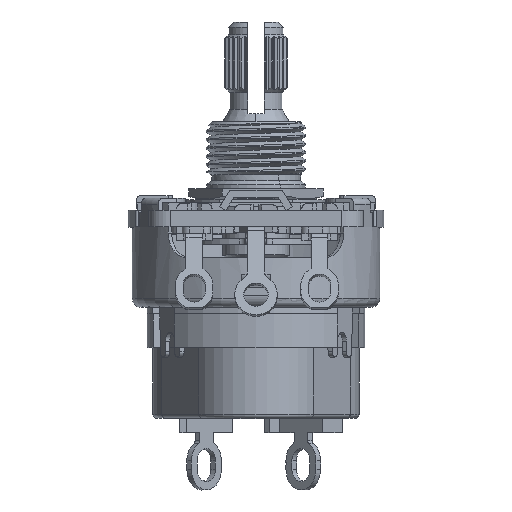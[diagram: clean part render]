
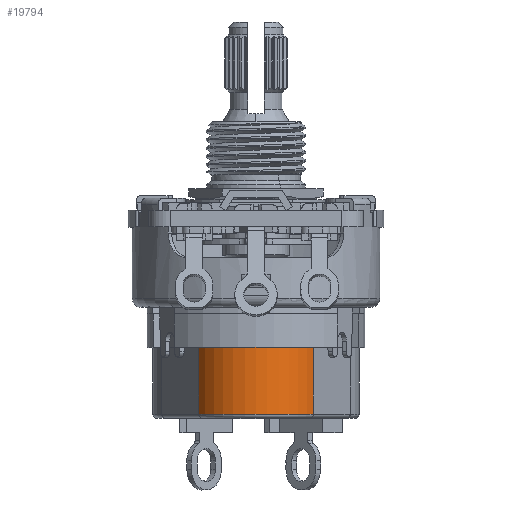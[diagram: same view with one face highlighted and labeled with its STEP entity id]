
A CAD part, top view. The second image highlights one B-rep face of the part: STEP entity #19794.
In plain terms, the highlighted cylindrical face has radius 6.296 mm (diameter 12.593 mm), a partial arc.
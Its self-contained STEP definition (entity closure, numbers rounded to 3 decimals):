
#166 = CARTESIAN_POINT ( 'NONE',  ( -5.453, 7.21, 9.95 ) ) ;
#393 = AXIS2_PLACEMENT_3D ( 'NONE', #9915, #10388, #17553 ) ;
#478 = DIRECTION ( 'NONE',  ( 0., 0., -1. ) ) ;
#622 = ORIENTED_EDGE ( 'NONE', *, *, #20524, .T. ) ;
#1731 = VERTEX_POINT ( 'NONE', #24049 ) ;
#2566 = DIRECTION ( 'NONE',  ( -1., 0., 0. ) ) ;
#2868 = CYLINDRICAL_SURFACE ( 'NONE', #393, 6.296 ) ;
#4005 = CARTESIAN_POINT ( 'NONE',  ( 0., 10.359, 3.2 ) ) ;
#6019 = EDGE_CURVE ( 'NONE', #23394, #21388, #19348, .T. ) ;
#6991 = DIRECTION ( 'NONE',  ( 0., 0., -1. ) ) ;
#7627 = FACE_OUTER_BOUND ( 'NONE', #26214, .T. ) ;
#8903 = AXIS2_PLACEMENT_3D ( 'NONE', #27660, #9781, #2566 ) ;
#9445 = CARTESIAN_POINT ( 'NONE',  ( 0., 4.062, 3.2 ) ) ;
#9781 = DIRECTION ( 'NONE',  ( 0., 0., 1. ) ) ;
#9915 = CARTESIAN_POINT ( 'NONE',  ( 0., 4.062, 9.95 ) ) ;
#10388 = DIRECTION ( 'NONE',  ( 0., 0., -1. ) ) ;
#11490 = VECTOR ( 'NONE', #478, 1000. ) ;
#11548 = DIRECTION ( 'NONE',  ( 1., 0., 0. ) ) ;
#11610 = ORIENTED_EDGE ( 'NONE', *, *, #6019, .T. ) ;
#12518 = CIRCLE ( 'NONE', #8903, 6.296 ) ;
#14404 = AXIS2_PLACEMENT_3D ( 'NONE', #29266, #6991, #11548 ) ;
#14749 = ORIENTED_EDGE ( 'NONE', *, *, #22370, .F. ) ;
#15162 = VERTEX_POINT ( 'NONE', #17538 ) ;
#15631 = VERTEX_POINT ( 'NONE', #29176 ) ;
#15883 = ORIENTED_EDGE ( 'NONE', *, *, #24321, .T. ) ;
#15950 = CIRCLE ( 'NONE', #14404, 6.296 ) ;
#17538 = CARTESIAN_POINT ( 'NONE',  ( -5.453, 7.21, 9.569 ) ) ;
#17553 = DIRECTION ( 'NONE',  ( -1., 0., 0. ) ) ;
#17681 = DIRECTION ( 'NONE',  ( -1., 0., 0. ) ) ;
#17794 = AXIS2_PLACEMENT_3D ( 'NONE', #9445, #25327, #17681 ) ;
#18119 = VECTOR ( 'NONE', #24914, 1000. ) ;
#19156 = ORIENTED_EDGE ( 'NONE', *, *, #22722, .T. ) ;
#19348 = CIRCLE ( 'NONE', #17794, 6.296 ) ;
#19794 = ADVANCED_FACE ( 'NONE', ( #7627 ), #2868, .T. ) ;
#20524 = EDGE_CURVE ( 'NONE', #15631, #1731, #29804, .T. ) ;
#21388 = VERTEX_POINT ( 'NONE', #22378 ) ;
#22162 = LINE ( 'NONE', #166, #11490 ) ;
#22370 = EDGE_CURVE ( 'NONE', #15162, #21388, #22162, .T. ) ;
#22378 = CARTESIAN_POINT ( 'NONE',  ( -5.453, 7.21, 3.2 ) ) ;
#22722 = EDGE_CURVE ( 'NONE', #1731, #23394, #12518, .T. ) ;
#23394 = VERTEX_POINT ( 'NONE', #4005 ) ;
#24049 = CARTESIAN_POINT ( 'NONE',  ( 5.453, 7.21, 3.2 ) ) ;
#24321 = EDGE_CURVE ( 'NONE', #15162, #15631, #15950, .T. ) ;
#24761 = CARTESIAN_POINT ( 'NONE',  ( 5.453, 7.21, 9.95 ) ) ;
#24914 = DIRECTION ( 'NONE',  ( 0., 0., -1. ) ) ;
#25327 = DIRECTION ( 'NONE',  ( 0., 0., 1. ) ) ;
#26214 = EDGE_LOOP ( 'NONE', ( #14749, #15883, #622, #19156, #11610 ) ) ;
#27660 = CARTESIAN_POINT ( 'NONE',  ( 0., 4.062, 3.2 ) ) ;
#29176 = CARTESIAN_POINT ( 'NONE',  ( 5.453, 7.21, 9.569 ) ) ;
#29266 = CARTESIAN_POINT ( 'NONE',  ( 0., 4.062, 9.569 ) ) ;
#29804 = LINE ( 'NONE', #24761, #18119 ) ;
